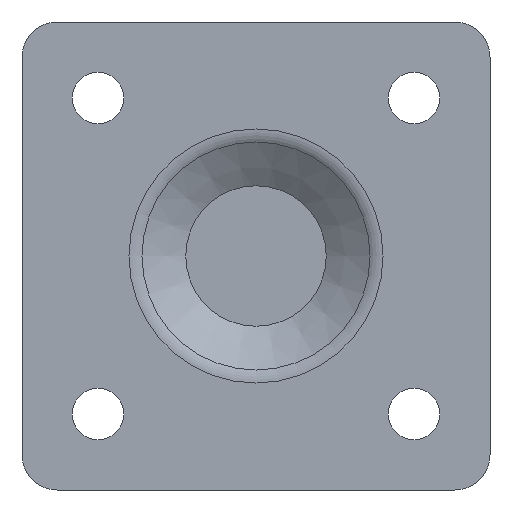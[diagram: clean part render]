
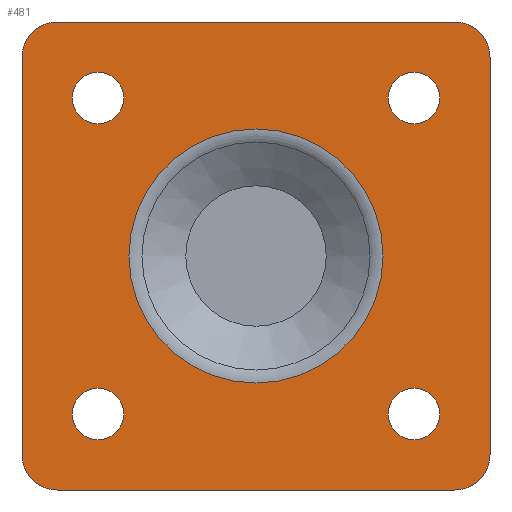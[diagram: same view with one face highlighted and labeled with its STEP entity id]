
A CAD part, front view. The second image highlights one B-rep face of the part: STEP entity #481.
In plain terms, the highlighted planar face has unit normal (0, -1, 0).
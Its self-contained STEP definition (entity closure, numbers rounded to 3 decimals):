
#33=LINE('',#790,#49);
#34=LINE('',#794,#50);
#35=LINE('',#798,#51);
#36=LINE('',#801,#52);
#49=VECTOR('',#641,34.);
#50=VECTOR('',#644,34.);
#51=VECTOR('',#647,34.);
#52=VECTOR('',#650,34.);
#65=PLANE('',#536);
#97=FACE_BOUND('',#175,.T.);
#98=FACE_BOUND('',#176,.T.);
#99=FACE_BOUND('',#177,.T.);
#100=FACE_BOUND('',#178,.T.);
#101=FACE_BOUND('',#179,.T.);
#129=FACE_OUTER_BOUND('',#174,.T.);
#174=EDGE_LOOP('',(#372,#373,#374,#375,#376,#377,#378,#379));
#175=EDGE_LOOP('',(#380));
#176=EDGE_LOOP('',(#381));
#177=EDGE_LOOP('',(#382));
#178=EDGE_LOOP('',(#383));
#179=EDGE_LOOP('',(#384));
#222=CIRCLE('',#515,2.2);
#225=CIRCLE('',#520,2.2);
#228=CIRCLE('',#525,2.2);
#231=CIRCLE('',#530,2.2);
#233=CIRCLE('',#533,10.856);
#235=CIRCLE('',#537,3.);
#236=CIRCLE('',#538,3.);
#237=CIRCLE('',#539,3.);
#238=CIRCLE('',#540,3.);
#256=VERTEX_POINT('',#751);
#259=VERTEX_POINT('',#759);
#262=VERTEX_POINT('',#767);
#265=VERTEX_POINT('',#775);
#267=VERTEX_POINT('',#780);
#269=VERTEX_POINT('',#786);
#270=VERTEX_POINT('',#787);
#271=VERTEX_POINT('',#789);
#272=VERTEX_POINT('',#791);
#273=VERTEX_POINT('',#793);
#274=VERTEX_POINT('',#795);
#275=VERTEX_POINT('',#797);
#276=VERTEX_POINT('',#799);
#300=EDGE_CURVE('',#256,#256,#222,.T.);
#303=EDGE_CURVE('',#259,#259,#225,.T.);
#306=EDGE_CURVE('',#262,#262,#228,.T.);
#309=EDGE_CURVE('',#265,#265,#231,.T.);
#311=EDGE_CURVE('',#267,#267,#233,.T.);
#313=EDGE_CURVE('',#269,#270,#235,.T.);
#314=EDGE_CURVE('',#271,#269,#33,.T.);
#315=EDGE_CURVE('',#272,#271,#236,.T.);
#316=EDGE_CURVE('',#272,#273,#34,.T.);
#317=EDGE_CURVE('',#274,#273,#237,.T.);
#318=EDGE_CURVE('',#275,#274,#35,.T.);
#319=EDGE_CURVE('',#276,#275,#238,.T.);
#320=EDGE_CURVE('',#276,#270,#36,.T.);
#372=ORIENTED_EDGE('',*,*,#313,.F.);
#373=ORIENTED_EDGE('',*,*,#314,.F.);
#374=ORIENTED_EDGE('',*,*,#315,.F.);
#375=ORIENTED_EDGE('',*,*,#316,.T.);
#376=ORIENTED_EDGE('',*,*,#317,.F.);
#377=ORIENTED_EDGE('',*,*,#318,.F.);
#378=ORIENTED_EDGE('',*,*,#319,.F.);
#379=ORIENTED_EDGE('',*,*,#320,.T.);
#380=ORIENTED_EDGE('',*,*,#300,.T.);
#381=ORIENTED_EDGE('',*,*,#303,.T.);
#382=ORIENTED_EDGE('',*,*,#306,.T.);
#383=ORIENTED_EDGE('',*,*,#309,.T.);
#384=ORIENTED_EDGE('',*,*,#311,.F.);
#481=ADVANCED_FACE('',(#129,#97,#98,#99,#100,#101),#65,.T.);
#515=AXIS2_PLACEMENT_3D('',#752,#595,#596);
#520=AXIS2_PLACEMENT_3D('',#760,#605,#606);
#525=AXIS2_PLACEMENT_3D('',#768,#615,#616);
#530=AXIS2_PLACEMENT_3D('',#776,#625,#626);
#533=AXIS2_PLACEMENT_3D('',#781,#631,#632);
#536=AXIS2_PLACEMENT_3D('',#785,#637,#638);
#537=AXIS2_PLACEMENT_3D('',#788,#639,#640);
#538=AXIS2_PLACEMENT_3D('',#792,#642,#643);
#539=AXIS2_PLACEMENT_3D('',#796,#645,#646);
#540=AXIS2_PLACEMENT_3D('',#800,#648,#649);
#595=DIRECTION('center_axis',(0.,1.,0.));
#596=DIRECTION('ref_axis',(1.,0.,0.));
#605=DIRECTION('center_axis',(0.,1.,0.));
#606=DIRECTION('ref_axis',(1.,0.,0.));
#615=DIRECTION('center_axis',(0.,1.,0.));
#616=DIRECTION('ref_axis',(1.,0.,0.));
#625=DIRECTION('center_axis',(0.,1.,0.));
#626=DIRECTION('ref_axis',(1.,0.,0.));
#631=DIRECTION('center_axis',(0.,-1.,0.));
#632=DIRECTION('ref_axis',(-1.,0.,0.));
#637=DIRECTION('center_axis',(0.,-1.,0.));
#638=DIRECTION('ref_axis',(1.,0.,0.));
#639=DIRECTION('center_axis',(0.,1.,0.));
#640=DIRECTION('ref_axis',(-0.707,0.,-0.707));
#641=DIRECTION('',(-1.,0.,0.));
#642=DIRECTION('center_axis',(0.,1.,0.));
#643=DIRECTION('ref_axis',(0.707,0.,-0.707));
#644=DIRECTION('',(0.,0.,1.));
#645=DIRECTION('center_axis',(0.,1.,0.));
#646=DIRECTION('ref_axis',(0.707,0.,0.707));
#647=DIRECTION('',(1.,0.,0.));
#648=DIRECTION('center_axis',(0.,1.,0.));
#649=DIRECTION('ref_axis',(-0.707,0.,0.707));
#650=DIRECTION('',(0.,0.,-1.));
#751=CARTESIAN_POINT('',(4.3,0.,13.5));
#752=CARTESIAN_POINT('Origin',(6.5,0.,13.5));
#759=CARTESIAN_POINT('',(4.3,0.,-13.5));
#760=CARTESIAN_POINT('Origin',(6.5,0.,-13.5));
#767=CARTESIAN_POINT('',(31.3,0.,-13.5));
#768=CARTESIAN_POINT('Origin',(33.5,0.,-13.5));
#775=CARTESIAN_POINT('',(31.3,0.,13.5));
#776=CARTESIAN_POINT('Origin',(33.5,0.,13.5));
#780=CARTESIAN_POINT('',(30.856,0.,0.));
#781=CARTESIAN_POINT('Origin',(20.,0.,0.));
#785=CARTESIAN_POINT('Origin',(0.,0.,0.));
#786=CARTESIAN_POINT('',(3.,0.,-20.));
#787=CARTESIAN_POINT('',(0.,0.,-17.));
#788=CARTESIAN_POINT('Origin',(3.,0.,-17.));
#789=CARTESIAN_POINT('',(37.,0.,-20.));
#790=CARTESIAN_POINT('',(0.,0.,-20.));
#791=CARTESIAN_POINT('',(40.,0.,-17.));
#792=CARTESIAN_POINT('Origin',(37.,0.,-17.));
#793=CARTESIAN_POINT('',(40.,0.,17.));
#794=CARTESIAN_POINT('',(40.,0.,0.));
#795=CARTESIAN_POINT('',(37.,0.,20.));
#796=CARTESIAN_POINT('Origin',(37.,0.,17.));
#797=CARTESIAN_POINT('',(3.,0.,20.));
#798=CARTESIAN_POINT('',(0.,0.,20.));
#799=CARTESIAN_POINT('',(0.,0.,17.));
#800=CARTESIAN_POINT('Origin',(3.,0.,17.));
#801=CARTESIAN_POINT('',(0.,0.,0.));
